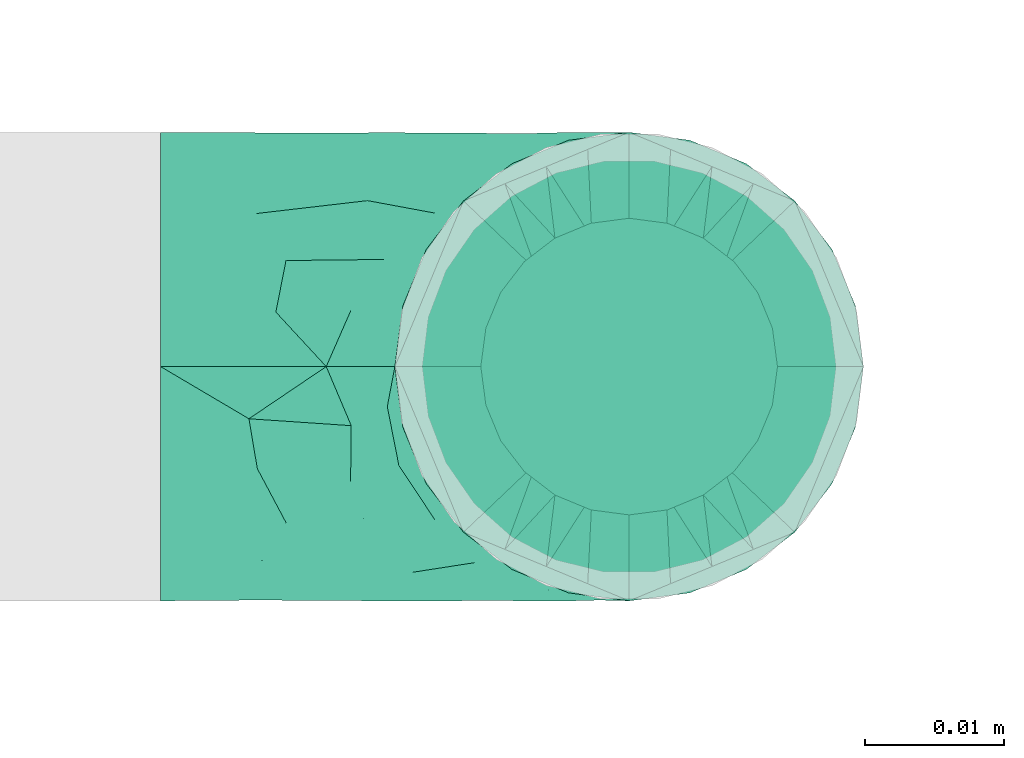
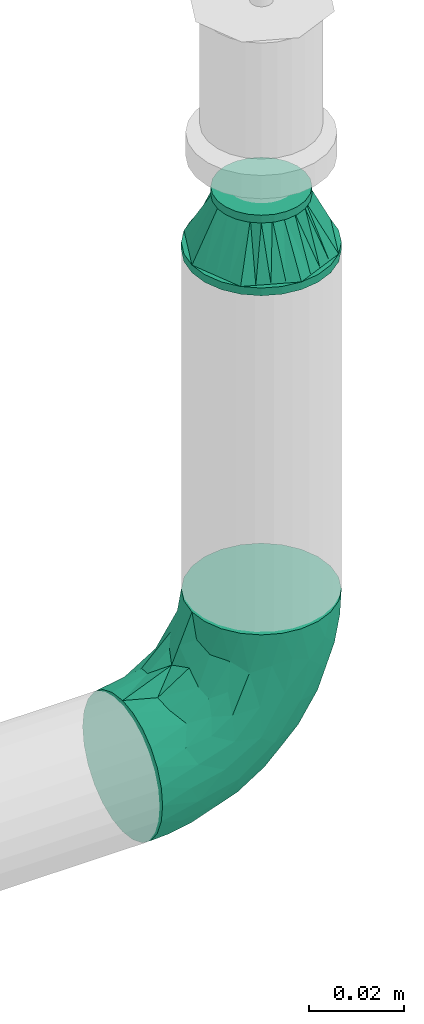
# One storey, part 46 of 157: 2 flow fittings.
"""IFC2X3 building model written with IfcOpenShell, lengths in millimetres."""

from ifc_helpers import new_model, entity, si_unit, converted_unit, derived_unit, direction, frame, origin_with_axes, place, context, subcontext, project, spatial, open_shell, surface_model, source, transform, mapped, type_object, element, save


model = new_model("IFC2X3")

# Units and contexts
model_context = context("Model", 3, precision=0.01, world=frame((0.0, 4.29681676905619e-09, 0.0)), true_north=direction((4.01073788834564e-13, 1.0)))
plan_context = context("Plan", 3, precision=0.01, world=frame((0.0, 4.29681676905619e-09, 0.0)), true_north=direction((4.01073788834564e-13, 1.0)))
body_context = subcontext(model_context, "Body", "Model", "MODEL_VIEW")
ifc_project = project(units=[converted_unit("PLANEANGLEUNIT", "DEGREE", entity("IfcPositiveLengthMeasure", 0.0174532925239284), si_unit("PLANEANGLEUNIT", "RADIAN"), dimensions=[0, 0, 0, 0, 0, 0, 0]), si_unit("AREAUNIT", "SQUARE_METRE"), si_unit("LENGTHUNIT", "METRE", prefix="MILLI"), si_unit("MASSUNIT", "GRAM", prefix="KILO"), si_unit("POWERUNIT", "WATT"), si_unit("PRESSUREUNIT", "PASCAL"), si_unit("FORCEUNIT", "NEWTON", prefix="KILO"), si_unit("ELECTRICCURRENTUNIT", "AMPERE"), si_unit("THERMODYNAMICTEMPERATUREUNIT", "DEGREE_CELSIUS"), si_unit("TIMEUNIT", "SECOND"), si_unit("VOLUMEUNIT", "CUBIC_METRE"), derived_unit("LINEARVELOCITYUNIT", [(si_unit("LENGTHUNIT", "METRE"), 1), (si_unit("TIMEUNIT", "SECOND"), -1)]), derived_unit("VOLUMETRICFLOWRATEUNIT", [(si_unit("VOLUMEUNIT", "CUBIC_METRE"), 1), (si_unit("TIMEUNIT", "SECOND"), -1)]), derived_unit("THERMALTRANSMITTANCEUNIT", [(si_unit("POWERUNIT", "WATT"), 1), (si_unit("THERMODYNAMICTEMPERATUREUNIT", "KELVIN"), -1), (si_unit("AREAUNIT", "SQUARE_METRE"), -1)])], contexts=[model_context, plan_context])

# Site, building, storey
site_placement = place(None, frame((0.0, -4.29681676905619e-09, 0.0), z_axis=(0.0, 0.0, 1.0), x_axis=(1.0, 0.0, 0.0)))
site = spatial("IfcSite", under=ifc_project, at=site_placement, CompositionType="ELEMENT")
building_placement = place(site_placement, frame((0.0, 4.29681676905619e-09, 0.0), z_axis=(0.0, 0.0, 1.0), x_axis=(1.0, 0.0, 0.0)))
building = spatial("IfcBuilding", under=site, at=building_placement, Name="mc-building", CompositionType="ELEMENT")
storey_placement = place(building_placement, frame((0.0, 0.0, 204000.0), z_axis=(0.0, 0.0, 1.0), x_axis=(1.0, 0.0, 0.0)))
storey = spatial("IfcBuildingStorey", under=building, at=storey_placement, Name="Nivå D", CompositionType="ELEMENT", Elevation=204000.0)

# Flow fittings
pipe_fitting_type_1 = type_object("IfcPipeFittingType", Name="magi_pipe_fe_elbow_short_001", PredefinedType="BEND")
shared_shape_1 = source(origin_with_axes(), body_context, "Body", "SurfaceModel", [
    surface_model("IfcShellBasedSurfaceModel", [(-33.8, 8.45, -14.63583), (-33.8, 4.37404, -16.32415), (-33.8, 11.9501, -11.9501), (-33.8, -11.9501, -11.9501), (-33.8, -14.63583, -8.45), (-33.8, -8.45, -14.63583), (-33.8, 0.0, -16.9), (-33.8, -4.37404, -16.32415), (-33.8, -4.37404, 16.32415), (-33.8, 0.0, 16.9), (-33.8, -8.45, 14.63583), (-33.8, 16.32415, -4.37404), (-33.8, 14.63583, -8.45), (-33.8, -16.32415, -4.37404), (-33.8, -16.9, 0.0), (-33.8, -16.32415, 4.37404), (-33.8, 11.9501, 11.9501), (-33.8, 14.63583, 8.45), (-33.8, 16.32415, 4.37404), (-33.8, 4.37404, 16.32415), (-33.8, 8.45, 14.63583), (-33.8, -14.63583, 8.45), (-33.8, -11.9501, 11.9501), (-33.8, 16.9, 0.0), (-11.9501, 33.8, -11.9501), (0.0, 33.8, -16.9), (-4.37404, 33.8, -16.32415), (-8.45, 33.8, -14.63583), (-14.63583, 33.8, -8.45), (-16.32415, 33.8, -4.37404), (14.63583, 33.8, -8.45), (8.45, 33.8, 14.63583), (16.32415, 33.8, -4.37404), (8.45, 33.8, -14.63583), (11.9501, 33.8, -11.9501), (4.37404, 33.8, -16.32415), (16.32415, 33.8, 4.37404), (16.9, 33.8, 0.0), (-11.9501, 33.8, 11.9501), (-16.32415, 33.8, 4.37404), (-14.63583, 33.8, 8.45), (-8.45, 33.8, 14.63583), (-4.37404, 33.8, 16.32415), (11.9501, 33.8, 11.9501), (14.63583, 33.8, 8.45), (0.0, 33.8, 16.9), (4.37404, 33.8, 16.32415), (-16.9, 33.8, 0.0), (-24.79389, -13.12945, 9.48721), (-22.19287, -9.75018, 12.59315), (-24.09897, -14.97035, 0.0), (-14.93934, -10.76256, 8.5297), (-22.46095, -14.75051, 5.27077), (14.75051, 22.46094, 5.27077), (11.9251, 13.23888, 4.33236), (13.04069, 14.39795, 0.0), (7.71387, 13.68847, 11.55891), (9.75018, 22.19287, 12.59315), (4.10169, 13.0571, 14.04018), (-24.84007, -6.39063, 15.2048), (-25.81779, -2.23879, 16.61097), (-23.66549, 2.59054, 16.87119), (-26.50418, 14.06512, 11.08152), (-24.21253, 17.66365, 7.72657), (-29.58514, 15.86957, 7.00283), (-6.17382, -7.5455, 0.0), (-13.23888, -11.9251, 4.33236), (-14.39795, -13.04069, 0.0), (-17.81434, 18.87373, 11.97104), (-6.30846, 29.15138, 15.82987), (-2.31622, 25.28002, 16.85849), (-29.23923, 10.23435, 13.77053), (-1.45439, -2.85688, 7.61475), (-0.28326, 0.34872, 10.09509), (-5.74484, -4.04709, 10.4122), (-4.41137, 11.31918, 16.59407), (-8.39727, 3.10034, 15.7812), (-1.72649, 9.1306, 15.53089), (-17.39909, 24.75344, 7.64977), (-26.19233, 20.0512, 0.0), (-28.14518, 17.29657, 4.25857), (-26.05147, 6.6281, 15.96447), (-5.87354, 16.61944, 16.86968), (-12.51807, 12.51807, 16.48937), (-10.06312, 7.38516, 16.81295), (-3.01882, 3.01882, 13.81718), (-13.0571, -4.10169, 14.04018), (-16.82553, -0.15166, 16.38038), (10.76256, 14.93934, 8.5297), (13.12945, 24.79389, 9.48721), (6.39063, 24.84007, 15.2048), (2.23879, 25.81779, 16.61097), (-13.68847, -7.71387, 11.55891), (14.97035, 24.09897, 0.0), (-7.30894, 22.89991, 16.09489), (-10.67958, 26.17414, 14.008), (-12.78295, 18.26924, 15.06066), (-13.88562, 22.45231, 12.93244), (-18.04944, 15.16501, 14.04434), (-23.11658, 20.08178, 4.02986), (-21.84989, 21.84989, 0.0), (-18.55817, 25.48277, 3.93065), (-13.95142, 26.94732, 11.03289), (-18.57098, 7.23906, 16.59756), (-16.58335, 4.14122, 16.89279), (-17.96666, 11.46709, 15.63151), (-9.84453, 17.54304, 16.18938), (0.15166, 16.82553, 16.38038), (-23.27207, 11.47201, 14.23154), (3.84842, 5.86994, 10.70473), (-8.0212, -7.54413, 7.93275), (1.00345, -2.19508, 4.57414), (5.13203, 3.01004, 5.90201), (5.24161, 1.7543, 2.53265), (8.70457, 7.04947, 3.99182), (-20.0512, 26.19233, 0.0), (8.4852, 8.76699, 7.09296), (-4.55488, -6.72064, 4.90681), (2.05031, -2.05031, 0.0), (7.5455, 6.17382, 0.0), (-26.75399, 2.1369, -16.845), (-14.61995, 24.73803, -11.27736), (-28.45274, -13.45335, -9.81895), (-26.00469, 6.63555, -15.96645), (-23.06726, 20.04573, -4.26202), (-13.80647, -4.26506, -14.17873), (-14.67501, -0.21081, -16.07388), (-6.7902, -0.2828, -13.8478), (-24.53586, 11.08096, -14.13417), (-26.72048, 14.00837, -11.05776), (10.0967, 24.44989, -12.75976), (5.83237, 21.40218, -15.03047), (6.66249, 28.54238, -15.38093), (-20.38182, 15.48705, -12.74596), (12.53268, 21.23441, -9.15363), (12.54494, 15.67504, -5.54878), (9.7522, 12.89279, -8.66343), (-15.65186, 19.64213, -13.01327), (-12.03528, 20.66498, -14.67665), (-15.61907, 15.61906, -14.83879), (-25.56551, -15.26206, 0.0), (-24.65452, -15.12934, -5.50955), (13.45335, 28.45274, -9.81895), (15.12934, 24.65452, -5.50955), (-7.35442, -8.31014, -5.65563), (-15.67504, -12.54494, -5.54878), (-24.44989, -10.0967, -12.75976), (0.16522, 0.41303, -9.71728), (-5.70658, -5.33066, -8.89288), (-5.13869, -2.37198, -11.53565), (-21.23441, -12.53268, -9.15363), (0.71146, 7.93863, -14.09382), (0.21081, 14.67501, -16.07388), (3.49291, 14.42772, -14.76381), (-24.89911, -2.13088, -16.591), (-28.54238, -6.66249, -15.38093), (-18.44386, -7.71663, -13.26957), (2.13088, 24.89911, -16.591), (-28.64342, 17.44413, -2.89318), (1.70017, -1.28722, -5.09504), (-16.57067, 26.81947, -7.36596), (-17.69055, 27.4263, -3.76405), (-12.89279, -9.7522, -8.66343), (-5.96611, 5.96611, -15.95814), (-20.53709, 20.09345, -8.28985), (-2.1369, 26.75399, -16.845), (-6.89872, 24.58781, -16.02578), (-10.60739, 26.53157, -13.98044), (-21.40218, -5.83237, -15.03047), (2.93192, 5.89627, -11.55917), (6.89393, 12.61842, -11.82233), (5.58056, 5.95325, -8.79455), (-3.99512, 18.61798, -16.89635), (8.31014, 7.35442, -5.65563), (-9.1383, 9.86148, -16.89041), (-9.99983, 16.02119, -16.39699), (-16.68576, 9.78031, -16.34199), (-27.01915, 16.61158, -7.12979), (15.26206, 25.56551, 0.0), (-18.61798, 3.99512, -16.89635), (-19.37495, 27.82495, 0.0), (-12.61842, -6.89393, -11.82233), (-18.84705, 19.14018, -10.96545)], [open_shell([[[0, 1, 2]], [[3, 4, 5]], [[6, 7, 5]], [[8, 9, 10]], [[1, 6, 2]], [[11, 12, 2]], [[4, 2, 6]], [[2, 13, 10]], [[5, 4, 6]], [[2, 4, 13]], [[14, 15, 13]], [[11, 2, 16]], [[11, 17, 18]], [[11, 16, 17]], [[19, 20, 16]], [[16, 2, 10]], [[19, 16, 10]], [[21, 22, 15]], [[22, 13, 15]], [[22, 10, 13]], [[10, 9, 19]], [[11, 18, 23]], [[24, 25, 26]], [[24, 26, 27]], [[24, 28, 29]], [[25, 24, 30]], [[31, 32, 24]], [[33, 30, 34]], [[33, 35, 25]], [[25, 30, 33]], [[32, 30, 24]], [[32, 36, 37]], [[38, 24, 29]], [[39, 40, 29]], [[40, 38, 29]], [[38, 41, 42]], [[38, 31, 24]], [[31, 38, 42]], [[36, 43, 44]], [[36, 32, 43]], [[31, 45, 46]], [[32, 31, 43]], [[42, 45, 31]], [[39, 29, 47]], [[22, 48, 49]], [[15, 14, 50]], [[51, 48, 52]], [[53, 54, 55]], [[48, 22, 21]], [[15, 52, 21]], [[56, 57, 58]], [[49, 10, 22]], [[49, 59, 10]], [[9, 60, 61]], [[62, 63, 64]], [[65, 66, 67]], [[57, 43, 31]], [[62, 68, 63]], [[42, 69, 70]], [[20, 71, 16]], [[8, 60, 9]], [[72, 73, 74]], [[75, 76, 77]], [[16, 62, 17]], [[40, 39, 78]], [[79, 23, 80]], [[64, 18, 17]], [[9, 61, 19]], [[19, 81, 20]], [[82, 83, 84]], [[74, 85, 86]], [[59, 86, 87]], [[88, 89, 57]], [[90, 31, 46]], [[44, 53, 36]], [[46, 45, 91]], [[54, 53, 88]], [[44, 89, 53]], [[92, 86, 49]], [[89, 44, 43]], [[10, 59, 8]], [[53, 55, 93]], [[93, 36, 53]], [[66, 52, 67]], [[94, 82, 70]], [[95, 96, 94]], [[97, 98, 96]], [[79, 99, 100]], [[41, 38, 95]], [[101, 100, 99]], [[68, 78, 63]], [[42, 41, 69]], [[23, 18, 80]], [[95, 94, 69]], [[78, 101, 99]], [[38, 102, 95]], [[70, 45, 42]], [[97, 95, 102]], [[15, 50, 52]], [[90, 57, 31]], [[57, 90, 58]], [[81, 19, 61]], [[103, 104, 84]], [[105, 81, 103]], [[38, 40, 102]], [[106, 96, 83]], [[94, 106, 82]], [[91, 70, 107]], [[71, 62, 16]], [[62, 108, 98]], [[86, 59, 49]], [[67, 52, 50]], [[60, 59, 87]], [[92, 49, 51]], [[86, 85, 76]], [[91, 90, 46]], [[37, 36, 93]], [[107, 77, 58]], [[107, 58, 90]], [[58, 85, 109]], [[110, 74, 92]], [[72, 74, 110]], [[66, 51, 52]], [[72, 111, 112]], [[113, 114, 112]], [[56, 88, 57]], [[52, 48, 21]], [[49, 48, 51]], [[57, 89, 43]], [[53, 89, 88]], [[103, 81, 61]], [[71, 81, 108]], [[18, 64, 80]], [[63, 78, 99]], [[47, 115, 101]], [[101, 115, 100]], [[40, 78, 102]], [[68, 102, 78]], [[97, 96, 95]], [[105, 98, 108]], [[103, 84, 83]], [[107, 70, 82]], [[76, 84, 87]], [[82, 84, 75]], [[70, 91, 45]], [[90, 91, 107]], [[59, 60, 8]], [[61, 60, 87]], [[73, 85, 74]], [[109, 112, 116]], [[103, 61, 104]], [[105, 103, 83]], [[96, 105, 83]], [[81, 105, 108]], [[96, 98, 105]], [[62, 98, 68]], [[61, 87, 104]], [[87, 84, 104]], [[86, 76, 87]], [[77, 76, 85]], [[58, 77, 85]], [[75, 77, 107]], [[82, 75, 107]], [[76, 75, 84]], [[81, 71, 20]], [[62, 71, 108]], [[95, 69, 41]], [[70, 69, 94]], [[62, 64, 17]], [[80, 63, 99]], [[63, 80, 64]], [[80, 99, 79]], [[66, 65, 117]], [[110, 66, 117]], [[112, 114, 116]], [[118, 117, 65]], [[110, 92, 51]], [[112, 111, 113]], [[119, 55, 54]], [[74, 86, 92]], [[58, 109, 56]], [[116, 56, 109]], [[66, 110, 51]], [[72, 110, 117]], [[111, 72, 117]], [[73, 112, 109]], [[117, 118, 111]], [[113, 111, 118]], [[118, 119, 113]], [[114, 119, 54]], [[119, 114, 113]], [[116, 54, 88]], [[54, 116, 114]], [[116, 88, 56]], [[112, 73, 72]], [[85, 73, 109]], [[78, 39, 101]], [[47, 101, 39]], [[102, 68, 97]], [[97, 68, 98]], [[82, 106, 83]], [[94, 96, 106]], [[1, 120, 6]], [[28, 24, 121]], [[3, 122, 4]], [[0, 123, 1]], [[100, 124, 79]], [[125, 126, 127]], [[128, 2, 129]], [[130, 131, 132]], [[128, 129, 133]], [[134, 135, 136]], [[137, 138, 139]], [[128, 0, 2]], [[67, 140, 141]], [[134, 142, 143]], [[141, 13, 4]], [[144, 65, 145]], [[146, 3, 5]], [[147, 148, 149]], [[145, 141, 150]], [[151, 152, 153]], [[154, 7, 6]], [[5, 155, 146]], [[150, 146, 156]], [[155, 5, 7]], [[143, 135, 134]], [[35, 157, 25]], [[23, 79, 158]], [[148, 159, 144]], [[160, 161, 29]], [[145, 162, 144]], [[163, 152, 151]], [[29, 28, 160]], [[121, 164, 160]], [[33, 34, 130]], [[25, 165, 26]], [[26, 165, 166]], [[142, 34, 30]], [[24, 27, 167]], [[124, 161, 164]], [[157, 35, 132]], [[155, 154, 168]], [[123, 0, 128]], [[169, 170, 171]], [[172, 157, 152]], [[26, 166, 27]], [[132, 35, 33]], [[142, 130, 34]], [[168, 154, 126]], [[136, 135, 173]], [[133, 137, 139]], [[2, 12, 129]], [[170, 131, 130]], [[30, 32, 143]], [[172, 174, 175]], [[176, 123, 128]], [[158, 177, 11]], [[135, 55, 119]], [[167, 27, 166]], [[175, 166, 172]], [[137, 167, 138]], [[122, 141, 4]], [[140, 14, 13]], [[32, 37, 178]], [[170, 130, 134]], [[152, 157, 131]], [[165, 157, 172]], [[153, 170, 151]], [[152, 163, 174]], [[168, 125, 156]], [[122, 146, 150]], [[120, 154, 6]], [[179, 174, 126]], [[179, 126, 154]], [[126, 163, 127]], [[162, 145, 150]], [[140, 13, 141]], [[32, 178, 143]], [[55, 143, 178]], [[177, 129, 12]], [[128, 133, 139]], [[176, 128, 139]], [[120, 123, 179]], [[121, 160, 28]], [[161, 100, 180]], [[166, 175, 138]], [[121, 24, 167]], [[161, 47, 29]], [[79, 124, 158]], [[124, 164, 177]], [[161, 124, 100]], [[136, 171, 170]], [[127, 163, 151]], [[147, 171, 159]], [[148, 144, 162]], [[127, 151, 169]], [[127, 181, 125]], [[129, 177, 164]], [[12, 11, 177]], [[159, 65, 144]], [[67, 141, 145]], [[143, 55, 135]], [[135, 119, 173]], [[123, 120, 1]], [[154, 120, 179]], [[157, 165, 25]], [[166, 165, 172]], [[172, 152, 174]], [[176, 139, 175]], [[126, 174, 163]], [[176, 174, 179]], [[174, 176, 175]], [[123, 176, 179]], [[150, 181, 162]], [[127, 149, 181]], [[181, 148, 162]], [[159, 148, 147]], [[171, 136, 173]], [[170, 134, 136]], [[159, 171, 173]], [[171, 147, 169]], [[169, 147, 149]], [[151, 170, 169]], [[164, 182, 129]], [[182, 121, 137]], [[181, 149, 148]], [[169, 149, 127]], [[182, 137, 133]], [[167, 137, 121]], [[166, 138, 167]], [[175, 139, 138]], [[129, 182, 133]], [[121, 182, 164]], [[161, 160, 164]], [[47, 161, 180]], [[177, 158, 124]], [[23, 158, 11]], [[130, 132, 33]], [[157, 132, 131]], [[143, 142, 30]], [[130, 142, 134]], [[154, 155, 7]], [[146, 155, 168]], [[146, 122, 3]], [[141, 122, 150]], [[152, 131, 153]], [[159, 119, 118]], [[67, 145, 65]], [[170, 153, 131]], [[119, 159, 173]], [[159, 118, 65]], [[156, 125, 181]], [[126, 125, 168]], [[150, 156, 181]], [[168, 156, 146]]])]),
])
flow_fitting_1_placement = place(storey_placement, frame((529240.89876, 407221.65, 2880.0), z_axis=(0.0, 1.0, 0.0), x_axis=(0.0, 0.0, -1.0)))
element("IfcFlowFitting", 1, at=flow_fitting_1_placement, inside=storey, type_object=pipe_fitting_type_1, Name="magi_pipe_fe_elbow_short_001", context=body_context, shape_type="MappedRepresentation", body=[
    mapped(shared_shape_1, transform((0.0, 0.0, 0.0), scale=1.0)),
])
pipe_fitting_type_2 = type_object("IfcPipeFittingType", Name="magi_pipe_fe_reducer_centric_short_NOR", PredefinedType="TRANSITION")
shared_shape_2 = source(origin_with_axes(), body_context, "Body", "SurfaceModel", [
    surface_model("IfcShellBasedSurfaceModel", [(-2.0, -7.56604, -7.56604), (-2.0, -10.33541, -2.76936), (-2.0, -5.35, -9.26647), (-2.0, 5.35, -9.26647), (-2.0, 10.33541, -2.76936), (-2.0, 7.56604, -7.56604), (12.4, 11.9501, 11.9501), (12.4, 0.0, 16.9), (12.4, 11.9501, -11.9501), (12.4, 16.9, 0.0), (0.0, -10.7, 0.0), (0.0, -5.35, 9.26647), (0.0, -5.35, -9.26647), (0.0, 10.7, 0.0), (12.4, 15.66253, -2.98753), (12.4, 8.96258, -13.18758), (0.0, 6.6875, -6.94985), (12.4, -15.66253, -2.98753), (12.4, -16.9, 0.0), (12.4, 5.97505, -14.42505), (0.0, 5.35, -9.26647), (12.4, 14.42505, -5.97505), (0.0, 8.025, -4.63324), (0.0, 9.3625, -2.31662), (0.0, -9.3625, -2.31662), (0.0, -8.025, -4.63324), (12.4, -14.42505, -5.97505), (12.4, 13.18758, -8.96258), (12.4, -13.18758, -8.96258), (12.4, -11.9501, -11.9501), (0.0, -6.6875, -6.94985), (12.4, -8.96258, -13.18758), (12.4, -5.97505, -14.42505), (12.4, -15.66253, 2.98753), (12.4, -8.96258, 13.18758), (0.0, -6.6875, 6.94985), (12.4, -11.9501, 11.9501), (12.4, 15.66253, 2.98753), (12.4, -5.97505, 14.42505), (12.4, -14.42505, 5.97505), (0.0, -8.025, 4.63324), (0.0, -9.3625, 2.31662), (0.0, 9.3625, 2.31662), (0.0, 8.025, 4.63324), (12.4, 14.42505, 5.97505), (12.4, -13.18758, 8.96258), (12.4, 13.18758, 8.96258), (0.0, 6.6875, 6.94985), (12.4, 8.96258, 13.18758), (0.0, 5.35, 9.26647), (12.4, 5.97505, 14.42505), (14.4, 4.37404, -16.32415), (14.4, 8.45, -14.63583), (14.4, 11.9501, -11.9501), (14.4, -8.45, -14.63583), (14.4, 16.32415, -4.37404), (14.4, 16.32415, 4.37404), (14.4, 14.63583, -8.45), (14.4, 0.0, -16.9), (14.4, -4.37404, -16.32415), (14.4, -11.9501, -11.9501), (14.4, -16.32415, -4.37404), (14.4, -14.63583, -8.45), (14.4, -16.32415, 4.37404), (14.4, 16.9, 0.0), (14.4, 14.63583, 8.45), (14.4, 11.9501, 11.9501), (14.4, 4.37404, 16.32415), (14.4, 8.45, 14.63583), (14.4, 0.0, 16.9), (14.4, -14.63583, 8.45), (14.4, -16.9, 0.0), (14.4, -8.45, 14.63583), (14.4, -11.9501, 11.9501), (14.4, -4.37404, 16.32415), (12.4, 4.37404, 16.32415), (12.4, -14.63583, 8.45), (12.4, 16.32415, 4.37404), (12.4, 8.45, 14.63583), (12.4, 14.63583, 8.45), (12.4, -8.45, 14.63583), (12.4, -4.37404, 16.32415), (12.4, -16.32415, 4.37404), (12.4, -16.32415, -4.37404), (12.4, -8.45, -14.63583), (12.4, 16.32415, -4.37404), (12.4, 14.63583, -8.45), (12.4, 8.45, -14.63583), (12.4, 4.37404, -16.32415), (12.4, 0.0, -16.9), (12.4, -14.63583, -8.45), (12.4, -4.37404, -16.32415), (-2.0, 2.76936, 10.33541), (-2.0, 0.0, 10.7), (-2.0, 5.35, 9.26647), (-2.0, 7.56604, 7.56604), (-2.0, 9.26647, 5.35), (-2.0, 10.33541, 2.76936), (-2.0, -10.33541, 2.76936), (-2.0, -2.76936, 10.33541), (-2.0, -7.56604, 7.56604), (-2.0, -5.35, 9.26647), (-2.0, -9.26647, 5.35), (-2.0, -10.7, 0.0), (-2.0, 9.26647, -5.35), (-2.0, 2.76936, -10.33541), (-2.0, -9.26647, -5.35), (-2.0, 0.0, -10.7), (-2.0, -2.76936, -10.33541), (-2.0, 10.7, 0.0), (0.0, 0.0, -10.7), (0.0, 2.76936, -10.33541), (0.0, 10.33541, -2.76936), (0.0, 7.56604, -7.56604), (0.0, -10.33541, -2.76936), (0.0, 9.26647, -5.35), (0.0, 0.0, 10.7), (0.0, -2.76936, -10.33541), (0.0, -7.56604, -7.56604), (0.0, -9.26647, -5.35), (0.0, 10.33541, 2.76936), (0.0, 9.26647, 5.35), (0.0, 7.56604, 7.56604), (0.0, 2.76936, 10.33541), (0.0, -7.56604, 7.56604), (0.0, -10.33541, 2.76936), (0.0, -9.26647, 5.35), (0.0, -2.76936, 10.33541), (0.0, 2.675, -9.26647), (0.0, -2.675, -9.26647), (12.4, 2.98753, -15.66253), (0.0, 0.0, -9.26647), (12.4, -2.98753, -15.66253), (0.0, -2.675, 9.26647), (0.0, 2.675, 9.26647), (12.4, -2.98753, 15.66253), (0.0, 0.0, 9.26647), (12.4, 2.98753, 15.66253)], [open_shell([[[0, 1, 2]], [[3, 4, 5]], [[6, 7, 8]], [[8, 9, 6]], [[10, 11, 12]], [[13, 9, 14]], [[15, 16, 8]], [[17, 18, 10]], [[15, 19, 20]], [[21, 22, 23]], [[24, 25, 26]], [[22, 21, 27]], [[28, 26, 25]], [[29, 30, 31]], [[12, 32, 31]], [[10, 18, 33]], [[34, 35, 36]], [[37, 9, 13]], [[34, 38, 11]], [[39, 40, 41]], [[42, 43, 44]], [[40, 39, 45]], [[46, 44, 43]], [[6, 47, 48]], [[49, 50, 48]], [[51, 52, 53]], [[54, 51, 53]], [[53, 55, 56]], [[55, 53, 57]], [[53, 56, 54]], [[58, 54, 59]], [[58, 51, 54]], [[60, 61, 62]], [[61, 60, 54]], [[54, 63, 61]], [[56, 55, 64]], [[56, 65, 66]], [[56, 66, 67]], [[67, 63, 54]], [[67, 66, 68]], [[63, 67, 69]], [[69, 70, 63]], [[71, 61, 63]], [[70, 72, 73]], [[70, 69, 72]], [[72, 69, 74]], [[54, 56, 67]], [[75, 76, 7]], [[77, 75, 78]], [[6, 79, 77]], [[6, 77, 78]], [[76, 75, 77]], [[80, 76, 36]], [[80, 81, 7]], [[7, 76, 80]], [[82, 76, 77]], [[82, 83, 18]], [[82, 77, 84]], [[77, 85, 8]], [[8, 85, 86]], [[8, 87, 88]], [[84, 77, 8]], [[88, 89, 8]], [[83, 29, 90]], [[29, 83, 84]], [[84, 89, 91]], [[83, 82, 84]], [[8, 89, 84]], [[85, 77, 9]], [[83, 61, 18]], [[90, 62, 83]], [[54, 29, 84]], [[90, 29, 60]], [[59, 84, 91]], [[83, 62, 61]], [[61, 71, 18]], [[59, 54, 84]], [[60, 29, 54]], [[60, 62, 90]], [[58, 59, 91]], [[91, 89, 58]], [[88, 51, 89]], [[87, 52, 88]], [[57, 8, 86]], [[87, 8, 53]], [[55, 86, 85]], [[87, 53, 52]], [[52, 51, 88]], [[64, 55, 85]], [[57, 86, 55]], [[57, 53, 8]], [[9, 64, 85]], [[89, 51, 58]], [[77, 56, 9]], [[79, 65, 77]], [[68, 6, 78]], [[79, 6, 66]], [[67, 78, 75]], [[77, 65, 56]], [[56, 64, 9]], [[67, 68, 78]], [[66, 6, 68]], [[66, 65, 79]], [[69, 67, 75]], [[75, 7, 69]], [[81, 74, 7]], [[80, 72, 81]], [[70, 36, 76]], [[80, 36, 73]], [[63, 76, 82]], [[80, 73, 72]], [[72, 74, 81]], [[71, 63, 82]], [[70, 76, 63]], [[70, 73, 36]], [[18, 71, 82]], [[7, 74, 69]], [[92, 1, 93]], [[94, 1, 92]], [[95, 96, 97]], [[95, 97, 94]], [[98, 93, 1]], [[99, 100, 101]], [[99, 93, 100]], [[100, 98, 102]], [[93, 98, 100]], [[98, 1, 103]], [[94, 97, 1]], [[1, 97, 4]], [[5, 4, 104]], [[4, 3, 1]], [[105, 1, 3]], [[1, 0, 106]], [[2, 107, 108]], [[2, 1, 105]], [[105, 107, 2]], [[4, 97, 109]], [[20, 110, 111]], [[112, 20, 113]], [[114, 20, 112]], [[112, 113, 115]], [[116, 114, 112]], [[110, 12, 117]], [[110, 20, 12]], [[118, 114, 119]], [[114, 118, 12]], [[20, 114, 12]], [[112, 13, 120]], [[120, 121, 122]], [[120, 122, 123]], [[116, 112, 123]], [[123, 122, 49]], [[116, 124, 114]], [[125, 124, 126]], [[10, 114, 125]], [[124, 127, 11]], [[125, 114, 124]], [[127, 124, 116]], [[123, 112, 120]], [[1, 114, 103]], [[106, 119, 1]], [[12, 0, 2]], [[106, 0, 118]], [[117, 2, 108]], [[1, 119, 114]], [[114, 10, 103]], [[117, 12, 2]], [[118, 0, 12]], [[118, 119, 106]], [[110, 117, 108]], [[108, 107, 110]], [[105, 111, 107]], [[3, 20, 105]], [[115, 5, 104]], [[3, 5, 113]], [[112, 104, 4]], [[3, 113, 20]], [[20, 111, 105]], [[13, 112, 4]], [[115, 104, 112]], [[115, 113, 5]], [[109, 13, 4]], [[107, 111, 110]], [[97, 120, 109]], [[96, 121, 97]], [[49, 95, 94]], [[96, 95, 122]], [[123, 94, 92]], [[97, 121, 120]], [[120, 13, 109]], [[123, 49, 94]], [[122, 95, 49]], [[122, 121, 96]], [[116, 123, 92]], [[92, 93, 116]], [[99, 127, 93]], [[101, 11, 99]], [[126, 100, 102]], [[101, 100, 124]], [[125, 102, 98]], [[101, 124, 11]], [[11, 127, 99]], [[10, 125, 98]], [[126, 102, 125]], [[126, 124, 100]], [[103, 10, 98]], [[93, 127, 116]], [[18, 7, 36]], [[18, 29, 8]], [[89, 8, 29]], [[18, 8, 7]], [[13, 11, 49]], [[13, 20, 12]], [[13, 12, 11]], [[24, 26, 17]], [[10, 24, 17]], [[16, 15, 20]], [[30, 12, 31]], [[23, 14, 21]], [[19, 128, 20]], [[27, 8, 16]], [[32, 12, 129]], [[30, 28, 25]], [[130, 131, 128]], [[129, 132, 32]], [[16, 22, 27]], [[13, 14, 23]], [[128, 19, 130]], [[130, 89, 131]], [[131, 132, 129]], [[89, 132, 131]], [[28, 30, 29]], [[42, 44, 37]], [[13, 42, 37]], [[35, 34, 11]], [[47, 49, 48]], [[41, 33, 39]], [[38, 133, 11]], [[45, 36, 35]], [[50, 49, 134]], [[47, 46, 43]], [[135, 136, 133]], [[134, 137, 50]], [[35, 40, 45]], [[10, 33, 41]], [[133, 38, 135]], [[135, 7, 136]], [[136, 137, 134]], [[7, 137, 136]], [[46, 47, 6]]])]),
])
flow_fitting_2_placement = place(storey_placement, frame((529240.89876, 407221.65, 3015.54800000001), z_axis=(0.0, 1.0, 0.0), x_axis=(0.0, 0.0, -1.0)))
element("IfcFlowFitting", 2, at=flow_fitting_2_placement, inside=storey, type_object=pipe_fitting_type_2, Name="magi_pipe_fe_reducer_centric_short_NOR", context=body_context, shape_type="MappedRepresentation", body=[
    mapped(shared_shape_2, transform((0.0, 0.0, 0.0), scale=1.0)),
])

save(model, "model.ifc")
